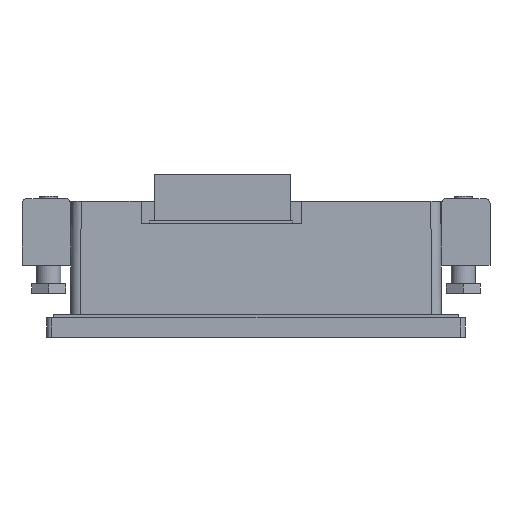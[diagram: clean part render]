
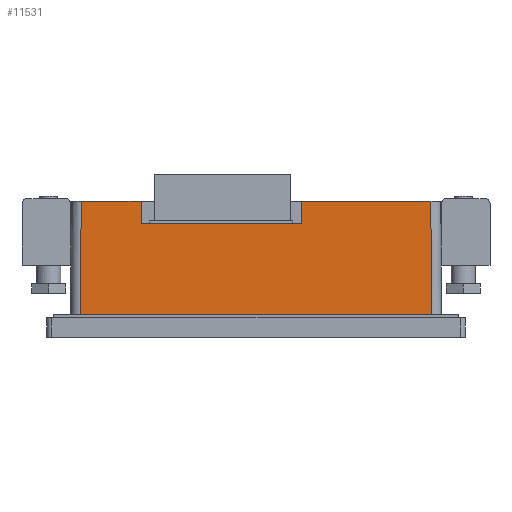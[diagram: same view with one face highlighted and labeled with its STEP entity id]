
A CAD part, left-side view. The second image highlights one B-rep face of the part: STEP entity #11531.
In plain terms, the highlighted planar face has unit normal (-1, 0, 0.007).
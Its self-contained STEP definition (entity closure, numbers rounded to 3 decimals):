
#4219 = CARTESIAN_POINT ( 'NONE',  ( -43.432, -35.932, 24. ) ) ;
#4264 = CARTESIAN_POINT ( 'NONE',  ( -43.6, -36.1, 0. ) ) ;
#4273 = DIRECTION ( 'NONE',  ( 0., -1., 0. ) ) ;
#4274 = VECTOR ( 'NONE', #4273, 1000. ) ;
#4282 = CARTESIAN_POINT ( 'NONE',  ( -43.432, 38.1, 24. ) ) ;
#4283 = LINE ( 'NONE', #4282, #4274 ) ;
#4288 = CARTESIAN_POINT ( 'NONE',  ( -43.432, 35.932, 24. ) ) ;
#4299 = CARTESIAN_POINT ( 'NONE',  ( -43.6, 38.1, 0. ) ) ;
#4300 = LINE ( 'NONE', #4299, #4361 ) ;
#4301 = DIRECTION ( 'NONE',  ( 0.007, 0., 1. ) ) ;
#4302 = VECTOR ( 'NONE', #4301, 1000. ) ;
#4303 = FACE_OUTER_BOUND ( 'NONE', #11544, .T. ) ;
#4304 = CARTESIAN_POINT ( 'NONE',  ( -43.6, 23.6, 0. ) ) ;
#4305 = PLANE ( 'NONE',  #4310 ) ;
#4306 = DIRECTION ( 'NONE',  ( 0., -1., 0. ) ) ;
#4307 = VECTOR ( 'NONE', #4306, 1000. ) ;
#4308 = CARTESIAN_POINT ( 'NONE',  ( -43.465, 38.1, 19.3 ) ) ;
#4309 = LINE ( 'NONE', #4308, #4307 ) ;
#4310 = AXIS2_PLACEMENT_3D ( 'NONE', #4324, #4323, #4355 ) ;
#4313 = DIRECTION ( 'NONE',  ( -0.007, 0., -1. ) ) ;
#4314 = VECTOR ( 'NONE', #4313, 1000. ) ;
#4315 = CARTESIAN_POINT ( 'NONE',  ( -43.6, -9.4, 0. ) ) ;
#4316 = LINE ( 'NONE', #4304, #4302 ) ;
#4322 = LINE ( 'NONE', #4358, #4352 ) ;
#4323 = DIRECTION ( 'NONE',  ( -1., 0., 0.007 ) ) ;
#4324 = CARTESIAN_POINT ( 'NONE',  ( -43.6, 38.1, 0. ) ) ;
#4330 = LINE ( 'NONE', #4315, #4314 ) ;
#4332 = DIRECTION ( 'NONE',  ( -0.007, 0.007, -1. ) ) ;
#4333 = VECTOR ( 'NONE', #4332, 1000. ) ;
#4334 = CARTESIAN_POINT ( 'NONE',  ( -43.6, 36.1, -0.014 ) ) ;
#4335 = LINE ( 'NONE', #4334, #4333 ) ;
#4346 = DIRECTION ( 'NONE',  ( 0., -1., 0. ) ) ;
#4347 = VECTOR ( 'NONE', #4346, 1000. ) ;
#4348 = CARTESIAN_POINT ( 'NONE',  ( -43.432, 38.1, 24. ) ) ;
#4349 = CARTESIAN_POINT ( 'NONE',  ( -43.432, 23.6, 24. ) ) ;
#4350 = CARTESIAN_POINT ( 'NONE',  ( -43.465, 23.6, 19.3 ) ) ;
#4351 = DIRECTION ( 'NONE',  ( 0.007, 0.007, 1. ) ) ;
#4352 = VECTOR ( 'NONE', #4351, 1000. ) ;
#4353 = CARTESIAN_POINT ( 'NONE',  ( -43.432, -9.4, 24. ) ) ;
#4355 = DIRECTION ( 'NONE',  ( 0.007, 0., 1. ) ) ;
#4356 = LINE ( 'NONE', #4348, #4347 ) ;
#4358 = CARTESIAN_POINT ( 'NONE',  ( -43.596, -36.096, 0.518 ) ) ;
#4359 = CARTESIAN_POINT ( 'NONE',  ( -43.6, 36.1, 0. ) ) ;
#4360 = DIRECTION ( 'NONE',  ( 0., -1., 0. ) ) ;
#4361 = VECTOR ( 'NONE', #4360, 1000. ) ;
#4362 = CARTESIAN_POINT ( 'NONE',  ( -43.465, -9.4, 19.3 ) ) ;
#11464 = VERTEX_POINT ( 'NONE', #4219 ) ;
#11477 = VERTEX_POINT ( 'NONE', #4264 ) ;
#11501 = EDGE_CURVE ( 'NONE', #11503, #11538, #4283, .T. ) ;
#11503 = VERTEX_POINT ( 'NONE', #4288 ) ;
#11507 = ORIENTED_EDGE ( 'NONE', *, *, #11508, .T. ) ;
#11508 = EDGE_CURVE ( 'NONE', #11503, #11541, #4335, .T. ) ;
#11518 = EDGE_CURVE ( 'NONE', #11536, #11530, #4330, .T. ) ;
#11519 = ORIENTED_EDGE ( 'NONE', *, *, #11518, .T. ) ;
#11520 = EDGE_CURVE ( 'NONE', #11539, #11530, #4309, .T. ) ;
#11521 = EDGE_CURVE ( 'NONE', #11539, #11538, #4316, .T. ) ;
#11523 = ORIENTED_EDGE ( 'NONE', *, *, #11501, .F. ) ;
#11527 = ORIENTED_EDGE ( 'NONE', *, *, #11537, .F. ) ;
#11528 = ORIENTED_EDGE ( 'NONE', *, *, #11521, .T. ) ;
#11529 = EDGE_CURVE ( 'NONE', #11541, #11477, #4300, .T. ) ;
#11530 = VERTEX_POINT ( 'NONE', #4362 ) ;
#11531 = ADVANCED_FACE ( 'NONE', ( #4303 ), #4305, .T. ) ;
#11532 = ORIENTED_EDGE ( 'NONE', *, *, #11534, .T. ) ;
#11533 = ORIENTED_EDGE ( 'NONE', *, *, #11529, .T. ) ;
#11534 = EDGE_CURVE ( 'NONE', #11477, #11464, #4322, .T. ) ;
#11535 = ORIENTED_EDGE ( 'NONE', *, *, #11520, .F. ) ;
#11536 = VERTEX_POINT ( 'NONE', #4353 ) ;
#11537 = EDGE_CURVE ( 'NONE', #11536, #11464, #4356, .T. ) ;
#11538 = VERTEX_POINT ( 'NONE', #4349 ) ;
#11539 = VERTEX_POINT ( 'NONE', #4350 ) ;
#11541 = VERTEX_POINT ( 'NONE', #4359 ) ;
#11544 = EDGE_LOOP ( 'NONE', ( #11533, #11532, #11527, #11519, #11535, #11528, #11523, #11507 ) ) ;
